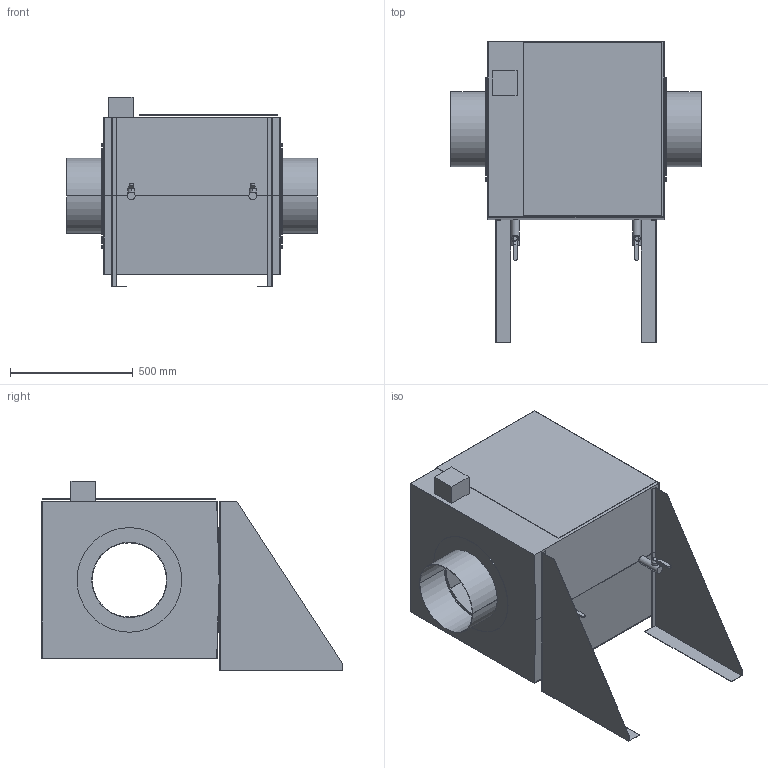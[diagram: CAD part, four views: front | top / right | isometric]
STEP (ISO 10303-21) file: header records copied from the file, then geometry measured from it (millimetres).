
FILE_DESCRIPTION((''),'2;1');
FILE_NAME('52259761','2024-06-20T10:45:14',('gm'),('HUBER SE'),'CREO PARAMETRIC BY PTC INC, 2022162','CREO PARAMETRIC BY PTC INC, 2022162','');
FILE_SCHEMA(('AUTOMOTIVE_DESIGN { 1 0 10303 214 1 1 1 1 }'));
Length unit declared in the file: millimetre
Products named in the file (1): 52259761
Bounding box: 1020 x 1225 x 772 mm (x, y, z)
Volume: 9048255.2 mm3; surface area: 8116743.8 mm2
Topology: 12 solids, 12 shells, 105 faces, 224 edges, 148 vertices
Faces by surface type: plane 75, cylinder 26, cone 4
Entity records: 3357 total; most frequent: DIRECTION 490, CARTESIAN_POINT 479, ORIENTED_EDGE 448, EDGE_CURVE 224, VECTOR 168, LINE 168, AXIS2_PLACEMENT_3D 161, VERTEX_POINT 148
